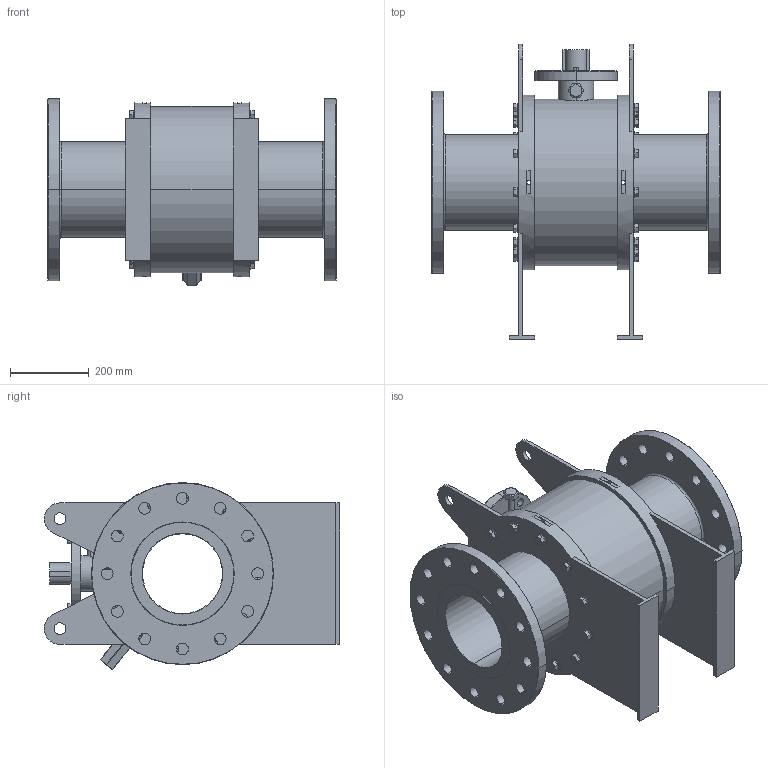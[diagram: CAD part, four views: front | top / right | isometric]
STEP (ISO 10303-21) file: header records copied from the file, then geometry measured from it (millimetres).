
FILE_DESCRIPTION (( 'STEP AP203' ), '1' );
FILE_NAME ('GB2_ANSI_900_8IN_TW.STEP', '2025-10-09T15:03:28', ( '' ), ( '' ), 'SwSTEP 2.0', 'SolidWorks 2025', '' );
FILE_SCHEMA (( 'CONFIG_CONTROL_DESIGN' ));
Length unit declared in the file: millimetre
Products named in the file (3): GB2_ANSI_900_8IN_TW; hex flange screw_am_B18.2.3.4M - Hex flange screw, M16 x 2.0 x 25 --25N; GB2_ANSI_2500_1500_ANSI_900_8IN
Assembly tree (25 placements, depth 2):
  GB2_ANSI_900_8IN_TW
    GB2_ANSI_2500_1500_ANSI_900_8IN
    hex flange screw_am_B18.2.3.4M - Hex flange screw, M16 x 2.0 x 25 --25N  x24
Bounding box: 737 x 751.52 x 475.08 mm (x, y, z)
Volume: 49715175.1 mm3; surface area: 2808114.9 mm2
Topology: 25 solids, 25 shells, 1033 faces, 2302 edges, 1376 vertices
Faces by surface type: plane 325, cone 270, cylinder 222, bspline 156, torus 54, sphere 6
Entity records: 13413 total; most frequent: CARTESIAN_POINT 3644, DIRECTION 1966, ORIENTED_EDGE 1744, EDGE_CURVE 872, AXIS2_PLACEMENT_3D 796, VERTEX_POINT 546, EDGE_LOOP 476, CIRCLE 420
